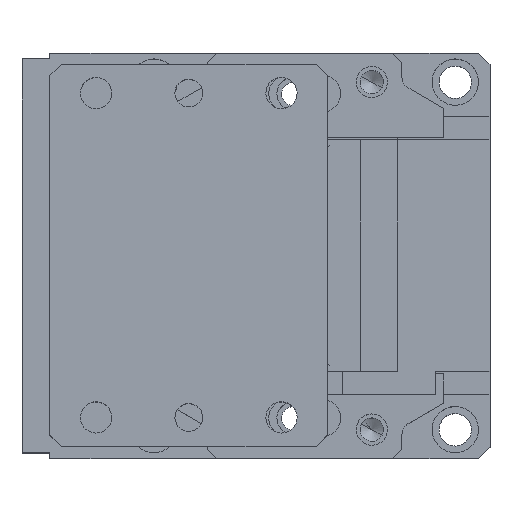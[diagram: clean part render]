
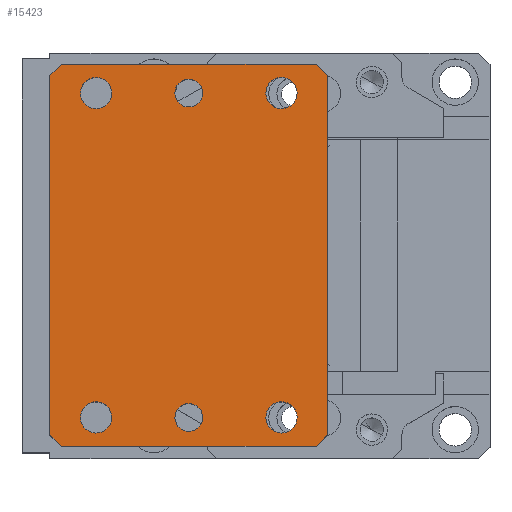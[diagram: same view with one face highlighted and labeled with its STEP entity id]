
A CAD part, top view. The second image highlights one B-rep face of the part: STEP entity #15423.
In plain terms, the highlighted planar face has unit normal (0, 0, 1).
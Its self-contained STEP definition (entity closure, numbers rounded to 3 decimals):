
#14830=CARTESIAN_POINT('Vertex',(5.,82.5,235.)) ;
#14833=CARTESIAN_POINT('Line Origine',(60.,82.5,235.)) ;
#14837=CARTESIAN_POINT('Vertex',(115.,82.5,235.)) ;
#14953=CARTESIAN_POINT('Vertex',(0.,77.5,235.)) ;
#14956=CARTESIAN_POINT('Line Origine',(0.,77.5,235.)) ;
#15096=CARTESIAN_POINT('Vertex',(115.,-82.5,235.)) ;
#15101=CARTESIAN_POINT('Line Origine',(60.,-82.5,235.)) ;
#15105=CARTESIAN_POINT('Vertex',(5.,-82.5,235.)) ;
#15219=CARTESIAN_POINT('Line Origine',(0.,-77.5,235.)) ;
#15223=CARTESIAN_POINT('Vertex',(0.,-77.5,235.)) ;
#15276=CARTESIAN_POINT('Axis2P3D Location',(167.217,0.,235.)) ;
#15281=CARTESIAN_POINT('Line Origine',(117.5,-80.,235.)) ;
#15285=CARTESIAN_POINT('Vertex',(120.,-77.5,235.)) ;
#15288=CARTESIAN_POINT('Line Origine',(120.,0.,235.)) ;
#15292=CARTESIAN_POINT('Vertex',(120.,77.5,235.)) ;
#15295=CARTESIAN_POINT('Line Origine',(117.5,80.,235.)) ;
#15300=CARTESIAN_POINT('Line Origine',(0.,0.,235.)) ;
#15315=CARTESIAN_POINT('Axis2P3D Location',(20.,-70.,235.)) ;
#15319=CARTESIAN_POINT('Vertex',(16.764,-64.076,235.)) ;
#15321=CARTESIAN_POINT('Vertex',(23.236,-75.924,235.)) ;
#15324=CARTESIAN_POINT('Axis2P3D Location',(20.,-70.,235.)) ;
#15333=CARTESIAN_POINT('Axis2P3D Location',(100.,-70.,235.)) ;
#15337=CARTESIAN_POINT('Vertex',(96.764,-64.076,235.)) ;
#15339=CARTESIAN_POINT('Vertex',(103.236,-75.924,235.)) ;
#15342=CARTESIAN_POINT('Axis2P3D Location',(100.,-70.,235.)) ;
#15351=CARTESIAN_POINT('Axis2P3D Location',(100.,70.,235.)) ;
#15355=CARTESIAN_POINT('Vertex',(96.764,75.924,235.)) ;
#15357=CARTESIAN_POINT('Vertex',(103.236,64.076,235.)) ;
#15360=CARTESIAN_POINT('Axis2P3D Location',(100.,70.,235.)) ;
#15369=CARTESIAN_POINT('Axis2P3D Location',(20.,70.,235.)) ;
#15373=CARTESIAN_POINT('Vertex',(16.764,75.924,235.)) ;
#15375=CARTESIAN_POINT('Vertex',(23.236,64.076,235.)) ;
#15378=CARTESIAN_POINT('Axis2P3D Location',(20.,70.,235.)) ;
#15387=CARTESIAN_POINT('Axis2P3D Location',(60.,-70.,235.)) ;
#15391=CARTESIAN_POINT('Vertex',(57.123,-64.735,235.)) ;
#15393=CARTESIAN_POINT('Vertex',(62.877,-75.265,235.)) ;
#15396=CARTESIAN_POINT('Axis2P3D Location',(60.,-70.,235.)) ;
#15405=CARTESIAN_POINT('Axis2P3D Location',(60.,70.,235.)) ;
#15409=CARTESIAN_POINT('Vertex',(57.123,75.265,235.)) ;
#15411=CARTESIAN_POINT('Vertex',(62.877,64.735,235.)) ;
#15414=CARTESIAN_POINT('Axis2P3D Location',(60.,70.,235.)) ;
#14835=VECTOR('Line Direction',#14834,1.) ;
#14958=VECTOR('Line Direction',#14957,1.) ;
#15103=VECTOR('Line Direction',#15102,1.) ;
#15221=VECTOR('Line Direction',#15220,1.) ;
#15283=VECTOR('Line Direction',#15282,1.) ;
#15290=VECTOR('Line Direction',#15289,1.) ;
#15297=VECTOR('Line Direction',#15296,1.) ;
#15302=VECTOR('Line Direction',#15301,1.) ;
#14834=DIRECTION('Vector Direction',(-1.,0.,0.)) ;
#14957=DIRECTION('Vector Direction',(0.707,0.707,0.)) ;
#15102=DIRECTION('Vector Direction',(-1.,0.,0.)) ;
#15220=DIRECTION('Vector Direction',(0.707,-0.707,0.)) ;
#15277=DIRECTION('Axis2P3D Direction',(0.,0.,1.)) ;
#15278=DIRECTION('Axis2P3D XDirection',(-1.,0.,0.)) ;
#15282=DIRECTION('Vector Direction',(-0.707,-0.707,0.)) ;
#15289=DIRECTION('Vector Direction',(0.,1.,0.)) ;
#15296=DIRECTION('Vector Direction',(-0.707,0.707,0.)) ;
#15301=DIRECTION('Vector Direction',(0.,-1.,0.)) ;
#15316=DIRECTION('Axis2P3D Direction',(0.,0.,1.)) ;
#15325=DIRECTION('Axis2P3D Direction',(0.,0.,1.)) ;
#15334=DIRECTION('Axis2P3D Direction',(0.,0.,1.)) ;
#15343=DIRECTION('Axis2P3D Direction',(0.,0.,1.)) ;
#15352=DIRECTION('Axis2P3D Direction',(0.,0.,1.)) ;
#15361=DIRECTION('Axis2P3D Direction',(0.,0.,1.)) ;
#15370=DIRECTION('Axis2P3D Direction',(0.,0.,1.)) ;
#15379=DIRECTION('Axis2P3D Direction',(0.,0.,1.)) ;
#15388=DIRECTION('Axis2P3D Direction',(0.,0.,1.)) ;
#15397=DIRECTION('Axis2P3D Direction',(0.,0.,1.)) ;
#15406=DIRECTION('Axis2P3D Direction',(0.,0.,1.)) ;
#15415=DIRECTION('Axis2P3D Direction',(0.,0.,1.)) ;
#15279=AXIS2_PLACEMENT_3D('Plane Axis2P3D',#15276,#15277,#15278) ;
#15317=AXIS2_PLACEMENT_3D('Circle Axis2P3D',#15315,#15316,$) ;
#15326=AXIS2_PLACEMENT_3D('Circle Axis2P3D',#15324,#15325,$) ;
#15335=AXIS2_PLACEMENT_3D('Circle Axis2P3D',#15333,#15334,$) ;
#15344=AXIS2_PLACEMENT_3D('Circle Axis2P3D',#15342,#15343,$) ;
#15353=AXIS2_PLACEMENT_3D('Circle Axis2P3D',#15351,#15352,$) ;
#15362=AXIS2_PLACEMENT_3D('Circle Axis2P3D',#15360,#15361,$) ;
#15371=AXIS2_PLACEMENT_3D('Circle Axis2P3D',#15369,#15370,$) ;
#15380=AXIS2_PLACEMENT_3D('Circle Axis2P3D',#15378,#15379,$) ;
#15389=AXIS2_PLACEMENT_3D('Circle Axis2P3D',#15387,#15388,$) ;
#15398=AXIS2_PLACEMENT_3D('Circle Axis2P3D',#15396,#15397,$) ;
#15407=AXIS2_PLACEMENT_3D('Circle Axis2P3D',#15405,#15406,$) ;
#15416=AXIS2_PLACEMENT_3D('Circle Axis2P3D',#15414,#15415,$) ;
#14836=LINE('Line',#14833,#14835) ;
#14959=LINE('Line',#14956,#14958) ;
#15104=LINE('Line',#15101,#15103) ;
#15222=LINE('Line',#15219,#15221) ;
#15284=LINE('Line',#15281,#15283) ;
#15291=LINE('Line',#15288,#15290) ;
#15298=LINE('Line',#15295,#15297) ;
#15303=LINE('Line',#15300,#15302) ;
#15318=CIRCLE('generated circle',#15317,6.75) ;
#15327=CIRCLE('generated circle',#15326,6.75) ;
#15336=CIRCLE('generated circle',#15335,6.75) ;
#15345=CIRCLE('generated circle',#15344,6.75) ;
#15354=CIRCLE('generated circle',#15353,6.75) ;
#15363=CIRCLE('generated circle',#15362,6.75) ;
#15372=CIRCLE('generated circle',#15371,6.75) ;
#15381=CIRCLE('generated circle',#15380,6.75) ;
#15390=CIRCLE('generated circle',#15389,6.) ;
#15399=CIRCLE('generated circle',#15398,6.) ;
#15408=CIRCLE('generated circle',#15407,6.) ;
#15417=CIRCLE('generated circle',#15416,6.) ;
#15280=PLANE('',#15279) ;
#15332=FACE_BOUND('',#15329,.T.) ;
#15350=FACE_BOUND('',#15347,.T.) ;
#15368=FACE_BOUND('',#15365,.T.) ;
#15386=FACE_BOUND('',#15383,.T.) ;
#15404=FACE_BOUND('',#15401,.T.) ;
#15422=FACE_BOUND('',#15419,.T.) ;
#14839=EDGE_CURVE('',#14838,#14831,#14836,.T.) ;
#14960=EDGE_CURVE('',#14954,#14831,#14959,.T.) ;
#15107=EDGE_CURVE('',#15097,#15106,#15104,.T.) ;
#15225=EDGE_CURVE('',#15224,#15106,#15222,.T.) ;
#15287=EDGE_CURVE('',#15286,#15097,#15284,.T.) ;
#15294=EDGE_CURVE('',#15293,#15286,#15291,.F.) ;
#15299=EDGE_CURVE('',#15293,#14838,#15298,.T.) ;
#15304=EDGE_CURVE('',#15224,#14954,#15303,.F.) ;
#15323=EDGE_CURVE('',#15320,#15322,#15318,.T.) ;
#15328=EDGE_CURVE('',#15322,#15320,#15327,.T.) ;
#15341=EDGE_CURVE('',#15338,#15340,#15336,.T.) ;
#15346=EDGE_CURVE('',#15340,#15338,#15345,.T.) ;
#15359=EDGE_CURVE('',#15356,#15358,#15354,.T.) ;
#15364=EDGE_CURVE('',#15358,#15356,#15363,.T.) ;
#15377=EDGE_CURVE('',#15374,#15376,#15372,.T.) ;
#15382=EDGE_CURVE('',#15376,#15374,#15381,.T.) ;
#15395=EDGE_CURVE('',#15392,#15394,#15390,.T.) ;
#15400=EDGE_CURVE('',#15394,#15392,#15399,.T.) ;
#15413=EDGE_CURVE('',#15410,#15412,#15408,.T.) ;
#15418=EDGE_CURVE('',#15412,#15410,#15417,.T.) ;
#15305=EDGE_LOOP('',(#15306,#15307,#15308,#15309,#15310,#15311,#15312,#15313)) ;
#15329=EDGE_LOOP('',(#15330,#15331)) ;
#15347=EDGE_LOOP('',(#15348,#15349)) ;
#15365=EDGE_LOOP('',(#15366,#15367)) ;
#15383=EDGE_LOOP('',(#15384,#15385)) ;
#15401=EDGE_LOOP('',(#15402,#15403)) ;
#15419=EDGE_LOOP('',(#15420,#15421)) ;
#15306=ORIENTED_EDGE('',*,*,#15225,.T.) ;
#15307=ORIENTED_EDGE('',*,*,#15107,.F.) ;
#15308=ORIENTED_EDGE('',*,*,#15287,.F.) ;
#15309=ORIENTED_EDGE('',*,*,#15294,.F.) ;
#15310=ORIENTED_EDGE('',*,*,#15299,.T.) ;
#15311=ORIENTED_EDGE('',*,*,#14839,.T.) ;
#15312=ORIENTED_EDGE('',*,*,#14960,.F.) ;
#15313=ORIENTED_EDGE('',*,*,#15304,.F.) ;
#15330=ORIENTED_EDGE('',*,*,#15323,.F.) ;
#15331=ORIENTED_EDGE('',*,*,#15328,.F.) ;
#15348=ORIENTED_EDGE('',*,*,#15341,.F.) ;
#15349=ORIENTED_EDGE('',*,*,#15346,.F.) ;
#15366=ORIENTED_EDGE('',*,*,#15359,.F.) ;
#15367=ORIENTED_EDGE('',*,*,#15364,.F.) ;
#15384=ORIENTED_EDGE('',*,*,#15377,.F.) ;
#15385=ORIENTED_EDGE('',*,*,#15382,.F.) ;
#15402=ORIENTED_EDGE('',*,*,#15395,.F.) ;
#15403=ORIENTED_EDGE('',*,*,#15400,.F.) ;
#15420=ORIENTED_EDGE('',*,*,#15413,.F.) ;
#15421=ORIENTED_EDGE('',*,*,#15418,.F.) ;
#14831=VERTEX_POINT('',#14830) ;
#14838=VERTEX_POINT('',#14837) ;
#14954=VERTEX_POINT('',#14953) ;
#15097=VERTEX_POINT('',#15096) ;
#15106=VERTEX_POINT('',#15105) ;
#15224=VERTEX_POINT('',#15223) ;
#15286=VERTEX_POINT('',#15285) ;
#15293=VERTEX_POINT('',#15292) ;
#15320=VERTEX_POINT('',#15319) ;
#15322=VERTEX_POINT('',#15321) ;
#15338=VERTEX_POINT('',#15337) ;
#15340=VERTEX_POINT('',#15339) ;
#15356=VERTEX_POINT('',#15355) ;
#15358=VERTEX_POINT('',#15357) ;
#15374=VERTEX_POINT('',#15373) ;
#15376=VERTEX_POINT('',#15375) ;
#15392=VERTEX_POINT('',#15391) ;
#15394=VERTEX_POINT('',#15393) ;
#15410=VERTEX_POINT('',#15409) ;
#15412=VERTEX_POINT('',#15411) ;
#15423=ADVANCED_FACE('opened position',(#15314,#15332,#15350,#15368,#15386,#15404,#15422),#15280,.T.) ;
#15314=FACE_OUTER_BOUND('',#15305,.T.) ;
